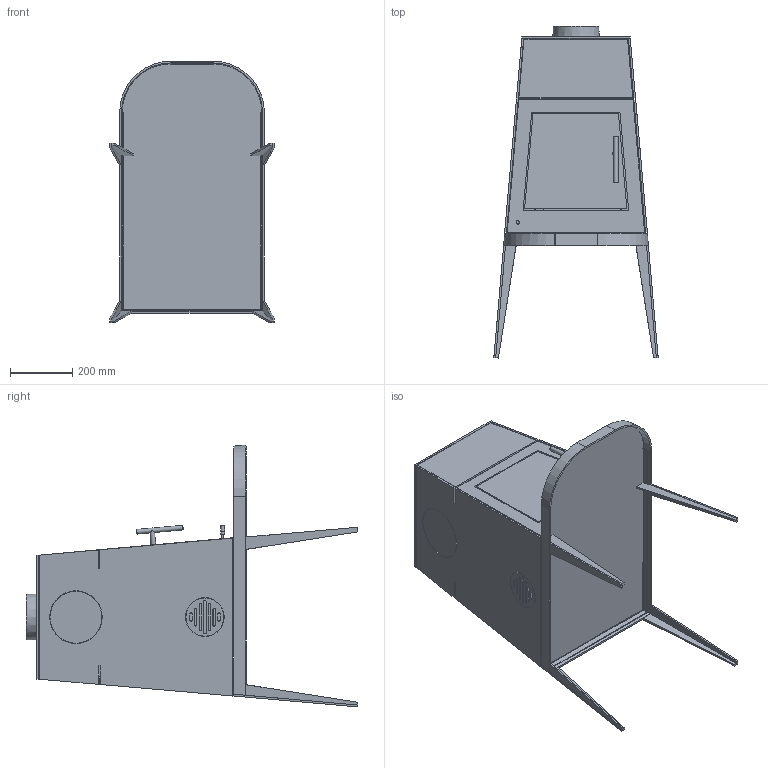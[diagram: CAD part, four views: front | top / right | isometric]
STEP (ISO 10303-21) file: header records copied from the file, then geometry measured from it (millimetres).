
FILE_DESCRIPTION(/* description */ ('Unknown'),/* implementation_level */ '2;1');
FILE_NAME(/* name */ 'shaker_kurze Bank',/* time_stamp */ '2017-07-12T12:10:04+02:00',/* author */ ('Unknown'),/* organization */ ('Unknown'),/* preprocessor_version */ 'ST-DEVELOPER v16.7',/* originating_system */ 'DEX',/* authorisation */ $);
FILE_SCHEMA (('AUTOMOTIVE_DESIGN {1 0 10303 214 3 1 1}'));
Length unit declared in the file: millimetre
Products named in the file (35): shaker; Shake_STH_ZR_0110; Shake_STH_ZR_0111; Shake_STH_VK_0111; Shake_STH_TR_0201; Shake_STH_TR_0202; Shake_STH_TR_0203; Shake_STH_VK_0108; Shake_STH_ZR_0103; Shake_STH_LS_0107; Shake_STH_LS_0106; Shake_STH_VK_0110; Shake_STH_TR_0103; Shake_STH_TR_0106; Shake_STH_TR_0105; Shake_STH_TR_0104; Shake_STH_VK_0101; 01-Gußstutzen; Shake_STH_ZR_0104; Shake_STH_VK_0104; Shake_STH_ZR_0101; Shake_STH_ZR_0102; Brennraumauskleidung; Shake_STH_ZR_0106; Shake_STH_ZR_0105; Shake_STH_VK_0109; Shake_STH_KP_0309; Brennraumauskleidung T黵; Shake_STH_VK_0105; Shake_STH_KP_0312; Shake_STH_KP_0305; Shake_STH_VK_0112; Shake_STH_KP_0310; Shake_STH_KP_0306; Shake_STH_KP_0311
Assembly tree (44 placements, depth 2):
  shaker
    Shake_STH_ZR_0110  x2
    Shake_STH_ZR_0111
    Shake_STH_VK_0111
    Shake_STH_TR_0201
    Shake_STH_TR_0202
    Shake_STH_TR_0203
    Shake_STH_VK_0108
    Shake_STH_ZR_0103
    Shake_STH_LS_0107
    Shake_STH_LS_0106
    Shake_STH_VK_0110  x2
    Shake_STH_TR_0103
    Shake_STH_TR_0106
    Shake_STH_TR_0105
    Shake_STH_TR_0104
    Shake_STH_VK_0101
    01-Gußstutzen
    Shake_STH_ZR_0104  x4
    Shake_STH_VK_0104
    Shake_STH_ZR_0101
    Shake_STH_ZR_0102  x2
    Brennraumauskleidung
    Shake_STH_ZR_0106  x2
    Shake_STH_ZR_0105  x2
    Shake_STH_VK_0109
    Shake_STH_KP_0309
    Brennraumauskleidung T黵
    Shake_STH_VK_0105
    Shake_STH_KP_0312
    Shake_STH_KP_0305  x2
    Shake_STH_VK_0112
    Shake_STH_KP_0310
    Shake_STH_KP_0306  x2
    Shake_STH_KP_0311
Bounding box: 529.86 x 1069.65 x 843.97 mm (x, y, z)
Volume: 24935455.5 mm3; surface area: 5263319 mm2
Topology: 44 solids, 44 shells, 509 faces, 1174 edges, 756 vertices
Faces by surface type: plane 351, cylinder 113, cone 21, sphere 12, torus 10, bspline 2
Full cylindrical faces by diameter (mm): 4.917 x2, 6 x3, 10 x1, 12 x3, 12.2 x1, 15 x2, 20 x1, 160 x1, 172 x1
Entity records: 13833 total; most frequent: CARTESIAN_POINT 2549, DIRECTION 2233, ORIENTED_EDGE 2014, EDGE_CURVE 1007, AXIS2_PLACEMENT_3D 758, LINE 717, VECTOR 717, VERTEX_POINT 664
